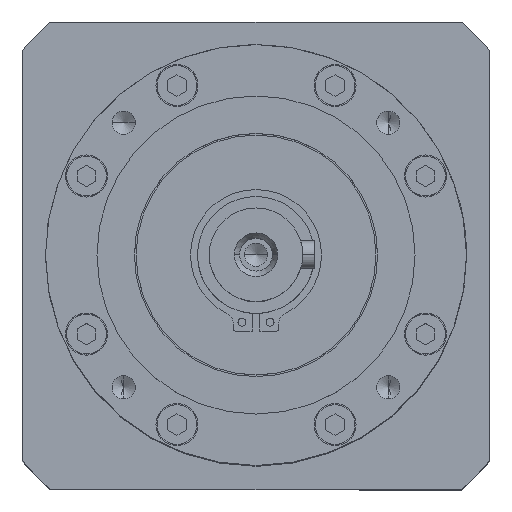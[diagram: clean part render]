
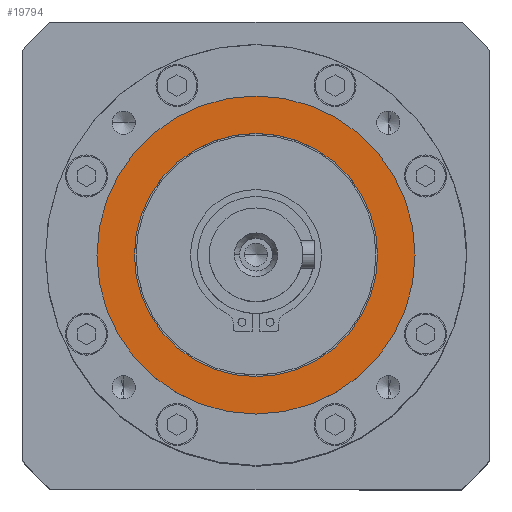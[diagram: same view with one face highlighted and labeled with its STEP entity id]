
A CAD part, top view. The second image highlights one B-rep face of the part: STEP entity #19794.
In plain terms, the highlighted planar face has unit normal (0, 0, 1).
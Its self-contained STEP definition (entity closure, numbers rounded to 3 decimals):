
#561 = CARTESIAN_POINT ( 'NONE',  ( 0., 0., 0. ) ) ;
#1618 = VERTEX_POINT ( 'NONE', #38639 ) ;
#2589 = DIRECTION ( 'NONE',  ( 1., 0., 0. ) ) ;
#3236 = FACE_BOUND ( 'NONE', #5362, .T. ) ;
#3514 = DIRECTION ( 'NONE',  ( 1., 0., 0. ) ) ;
#3522 = DIRECTION ( 'NONE',  ( 0., 0., -1. ) ) ;
#3576 = CARTESIAN_POINT ( 'NONE',  ( 0., 0., 0. ) ) ;
#3961 = DIRECTION ( 'NONE',  ( 1., 0., 0. ) ) ;
#4340 = EDGE_CURVE ( 'NONE', #37475, #1618, #41432, .T. ) ;
#4690 = CARTESIAN_POINT ( 'NONE',  ( 34., 0., 0. ) ) ;
#5362 = EDGE_LOOP ( 'NONE', ( #11034, #24822 ) ) ;
#6615 = CIRCLE ( 'NONE', #24342, 34. ) ;
#7367 = EDGE_CURVE ( 'NONE', #34461, #34345, #29126, .T. ) ;
#10494 = DIRECTION ( 'NONE',  ( 0., 0., -1. ) ) ;
#11034 = ORIENTED_EDGE ( 'NONE', *, *, #4340, .F. ) ;
#13527 = CARTESIAN_POINT ( 'NONE',  ( 26., 0., 0. ) ) ;
#17325 = CARTESIAN_POINT ( 'NONE',  ( 0., 26., 0. ) ) ;
#19794 = ADVANCED_FACE ( 'NONE', ( #3236, #21175 ), #20764, .F. ) ;
#20686 = EDGE_LOOP ( 'NONE', ( #23701, #22442 ) ) ;
#20764 = PLANE ( 'NONE',  #37594 ) ;
#21175 = FACE_OUTER_BOUND ( 'NONE', #20686, .T. ) ;
#22442 = ORIENTED_EDGE ( 'NONE', *, *, #25076, .F. ) ;
#22833 = DIRECTION ( 'NONE',  ( 0., 0., 1. ) ) ;
#23049 = EDGE_CURVE ( 'NONE', #1618, #37475, #43367, .T. ) ;
#23420 = DIRECTION ( 'NONE',  ( 1., 0., 0. ) ) ;
#23427 = DIRECTION ( 'NONE',  ( 0., 0., 1. ) ) ;
#23484 = CARTESIAN_POINT ( 'NONE',  ( 0., 0., 0. ) ) ;
#23701 = ORIENTED_EDGE ( 'NONE', *, *, #7367, .F. ) ;
#24194 = DIRECTION ( 'NONE',  ( -1., 0., 0. ) ) ;
#24200 = DIRECTION ( 'NONE',  ( 0., 0., -1. ) ) ;
#24342 = AXIS2_PLACEMENT_3D ( 'NONE', #561, #24200, #3961 ) ;
#24822 = ORIENTED_EDGE ( 'NONE', *, *, #23049, .F. ) ;
#25076 = EDGE_CURVE ( 'NONE', #34345, #34461, #6615, .T. ) ;
#27301 = CARTESIAN_POINT ( 'NONE',  ( -34., 0., 0. ) ) ;
#29126 = CIRCLE ( 'NONE', #30819, 34. ) ;
#30819 = AXIS2_PLACEMENT_3D ( 'NONE', #3576, #3522, #3514 ) ;
#34345 = VERTEX_POINT ( 'NONE', #27301 ) ;
#34461 = VERTEX_POINT ( 'NONE', #4690 ) ;
#34633 = AXIS2_PLACEMENT_3D ( 'NONE', #42670, #22833, #2589 ) ;
#37475 = VERTEX_POINT ( 'NONE', #13527 ) ;
#37594 = AXIS2_PLACEMENT_3D ( 'NONE', #17325, #10494, #24194 ) ;
#38639 = CARTESIAN_POINT ( 'NONE',  ( -26., 0., 0. ) ) ;
#39121 = AXIS2_PLACEMENT_3D ( 'NONE', #23484, #23427, #23420 ) ;
#41432 = CIRCLE ( 'NONE', #39121, 26. ) ;
#42670 = CARTESIAN_POINT ( 'NONE',  ( 0., 0., 0. ) ) ;
#43367 = CIRCLE ( 'NONE', #34633, 26. ) ;
